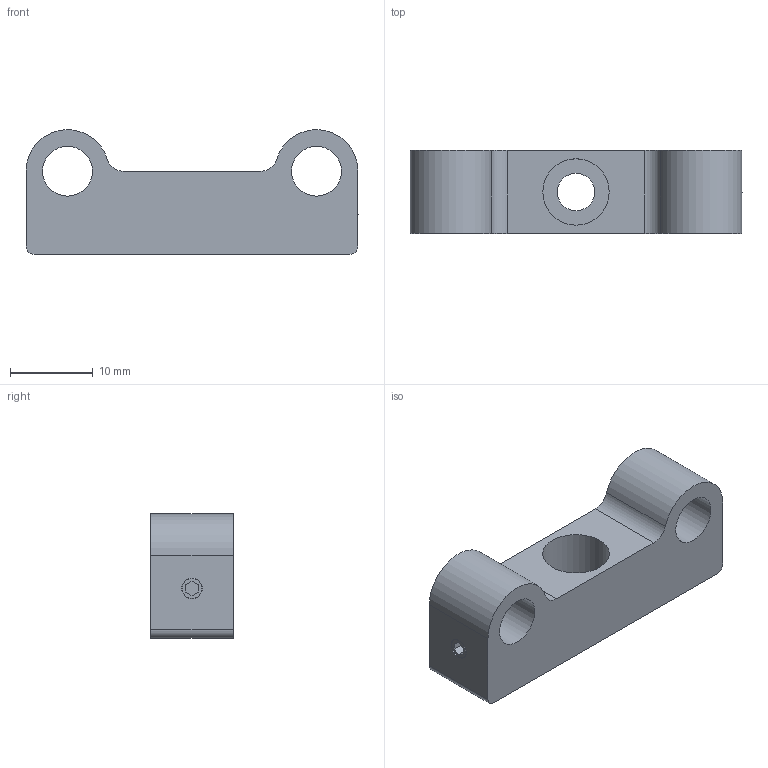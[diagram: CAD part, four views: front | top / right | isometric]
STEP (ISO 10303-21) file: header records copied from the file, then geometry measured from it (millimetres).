
FILE_DESCRIPTION(/* description */ (''),/* implementation_level */ '2;1');
FILE_NAME(/* name */ '\\fs001\share\Public_Div\41_開発部\開発\①開発案件\1_ケージシステム\図面\C30-RMBF-10\C30-RMBF-10_STP\C30-RMBF-10.stp',/* time_stamp */ '2018-10-02T13:49:54+09:00',/* author */ ('ka.nakajima'),/* organization */ (''),/* preprocessor_version */ 'ST-DEVELOPER v16.13',/* originating_system */ 'Autodesk Inventor 2018',/* authorisation */ '');
FILE_SCHEMA (('AUTOMOTIVE_DESIGN { 1 0 10303 214 3 1 1 }'));
Length unit declared in the file: millimetre
Products named in the file (1): C30-RMBF-10
Bounding box: 40 x 10 x 14.99 mm (x, y, z)
Volume: 3788.2 mm3; surface area: 2598.9 mm2
Topology: 1 solids, 1 shells, 45 faces, 119 edges, 81 vertices
Faces by surface type: plane 25, cylinder 14, cone 6
Full cylindrical faces by diameter (mm): 2.5 x4, 4.5 x1, 6 x2, 8 x1
Entity records: 1364 total; most frequent: CARTESIAN_POINT 282, DIRECTION 210, ORIENTED_EDGE 176, EDGE_CURVE 88, AXIS2_PLACEMENT_3D 78, EDGE_LOOP 72, VERTEX_POINT 66, LINE 54
